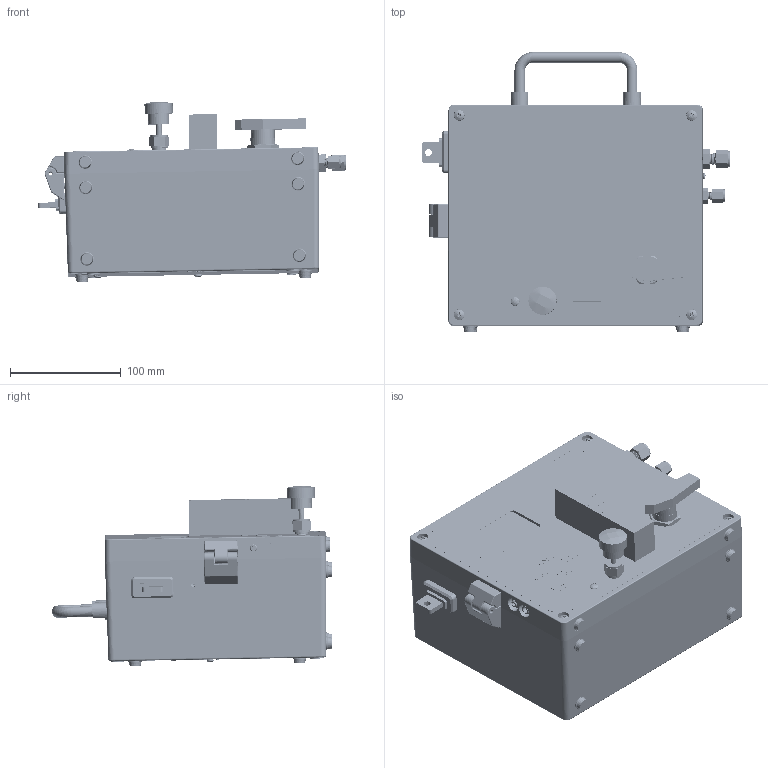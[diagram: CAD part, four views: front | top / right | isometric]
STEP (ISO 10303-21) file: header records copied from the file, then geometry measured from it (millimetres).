
FILE_DESCRIPTION (( 'STEP AP214' ), '1' );
FILE_NAME ('GPR-3500 MOVR.STEP', '2025-10-21T15:33:03', ( '' ), ( '' ), 'SwSTEP 2.0', 'SolidWorks 2025', '' );
FILE_SCHEMA (( 'AUTOMOTIVE_DESIGN' ));
Length unit declared in the file: inch
Products named in the file (1): GPR-3500 MOVR
Bounding box: 278.26 x 252.51 x 162.76 mm (x, y, z)
Volume: 1777024 mm3; surface area: 760653.5 mm2
Topology: 249 solids, 249 shells, 10797 faces, 28514 edges, 18486 vertices
Faces by surface type: plane 4625, cylinder 3479, cone 1352, bspline 1017, torus 200, sphere 124
Entity records: 480033 total; most frequent: CARTESIAN_POINT 221001, ORIENTED_EDGE 56698, DIRECTION 48468, EDGE_CURVE 28349, VERTEX_POINT 18470, AXIS2_PLACEMENT_3D 16571, LINE 15326, VECTOR 15326
